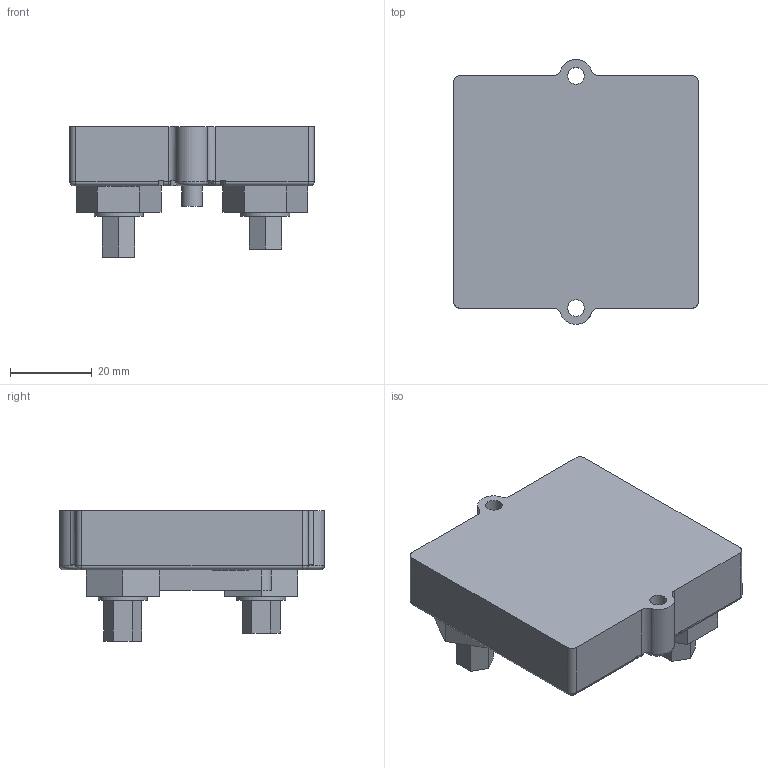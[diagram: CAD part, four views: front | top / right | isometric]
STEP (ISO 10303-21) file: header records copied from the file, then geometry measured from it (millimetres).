
FILE_DESCRIPTION(('STEP AP203'), '1');
FILE_NAME('Ð1-150Ì-600(800)', '', ('UNSPECIFIED'), ('UNSPECIFIED'), 'C3D Converter', 'C3D Toolkit', '');
FILE_SCHEMA(('CONFIG_CONTROL_DESIGN'));
Length unit declared in the file: millimetre
Bounding box: 60 x 65 x 32 mm (x, y, z)
Volume: 53726.9 mm3; surface area: 14418.7 mm2
Topology: 1 solids, 3 shells, 146 faces, 375 edges, 248 vertices
Faces by surface type: plane 92, cylinder 42, torus 10, cone 2
Full cylindrical faces by diameter (mm): 4.1 x2, 5 x2, 7 x2, 8 x2, 12 x2, 16.2 x2
Entity records: 5766 total; most frequent: CARTESIAN_POINT 1000, DIRECTION 735, ORIENTED_EDGE 714, EDGE_CURVE 357, AXIS2_PLACEMENT_3D 247, VERTEX_POINT 246, LINE 241, VECTOR 241
